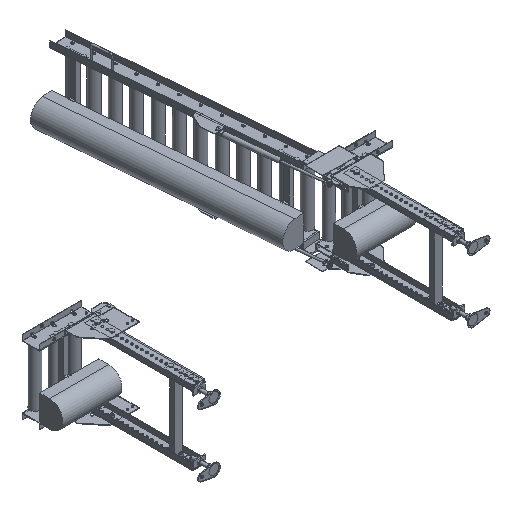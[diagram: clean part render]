
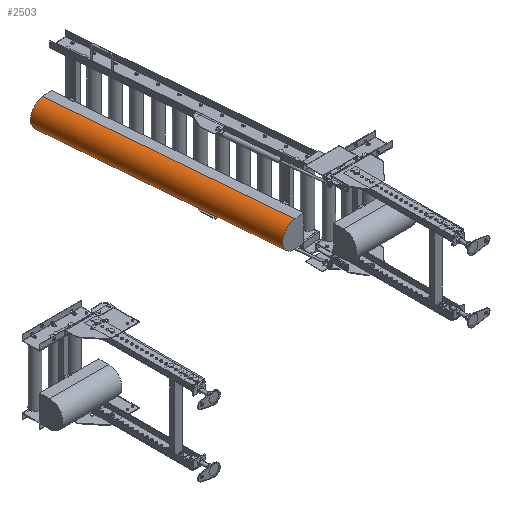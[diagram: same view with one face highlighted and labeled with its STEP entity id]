
A CAD part, isometric view. The second image highlights one B-rep face of the part: STEP entity #2503.
In plain terms, the highlighted cylindrical face has radius 66.89 mm (diameter 133.78 mm), a partial arc.
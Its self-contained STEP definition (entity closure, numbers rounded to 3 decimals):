
#2503=ADVANCED_FACE('',(#19538),#19537,.T.);
#19537=CYLINDRICAL_SURFACE('',#38193,66.89);
#19538=FACE_OUTER_BOUND('',#38194,.T.);
#38190=CARTESIAN_POINT('',(-71.797,-158.438,-92.61));
#38191=DIRECTION('',(0.087,-0.996,0.));
#38192=DIRECTION('',(0.,0.,-1.));
#38193=AXIS2_PLACEMENT_3D('',#38190,#38191,#38192);
#38194=EDGE_LOOP('',(#51935,#51936,#51937,#51938));
#51935=ORIENTED_EDGE('',*,*,#61057,.F.);
#51936=ORIENTED_EDGE('',*,*,#61079,.T.);
#51937=ORIENTED_EDGE('',*,*,#61077,.T.);
#51938=ORIENTED_EDGE('',*,*,#61053,.F.);
#61053=EDGE_CURVE('',#90586,#90593,#90594,.T.);
#61057=EDGE_CURVE('',#90613,#90586,#90620,.T.);
#61077=EDGE_CURVE('',#90758,#90593,#90759,.T.);
#61079=EDGE_CURVE('',#90613,#90758,#90771,.T.);
#90586=VERTEX_POINT('',#123416);
#90593=VERTEX_POINT('',#123420);
#90594=CIRCLE('',#123424,66.89);
#90613=VERTEX_POINT('',#123432);
#90620=LINE('',#123436,#123437);
#90758=VERTEX_POINT('',#123514);
#90759=LINE('',#123515,#123516);
#90771=CIRCLE('',#123524,66.89);
#123416=CARTESIAN_POINT('',(-190.216,1196.047,-159.5));
#123420=CARTESIAN_POINT('',(-190.216,1196.047,-25.72));
#123421=CARTESIAN_POINT('',(-190.216,1196.047,-92.61));
#123422=DIRECTION('',(-0.087,0.996,0.));
#123423=DIRECTION('',(0.,0.,1.));
#123424=AXIS2_PLACEMENT_3D('',#123421,#123422,#123423);
#123432=CARTESIAN_POINT('',(-87.269,18.539,-159.5));
#123436=CARTESIAN_POINT('',(-87.269,18.539,-159.5));
#123437=VECTOR('',#123438,1182.);
#123438=DIRECTION('',(-0.087,0.996,0.));
#123514=CARTESIAN_POINT('',(-87.269,18.539,-25.72));
#123515=CARTESIAN_POINT('',(-87.269,18.539,-25.72));
#123516=VECTOR('',#123517,1182.);
#123517=DIRECTION('',(-0.087,0.996,0.));
#123521=CARTESIAN_POINT('',(-87.269,18.539,-92.61));
#123522=DIRECTION('',(-0.087,0.996,0.));
#123523=DIRECTION('',(0.,0.,1.));
#123524=AXIS2_PLACEMENT_3D('',#123521,#123522,#123523);
